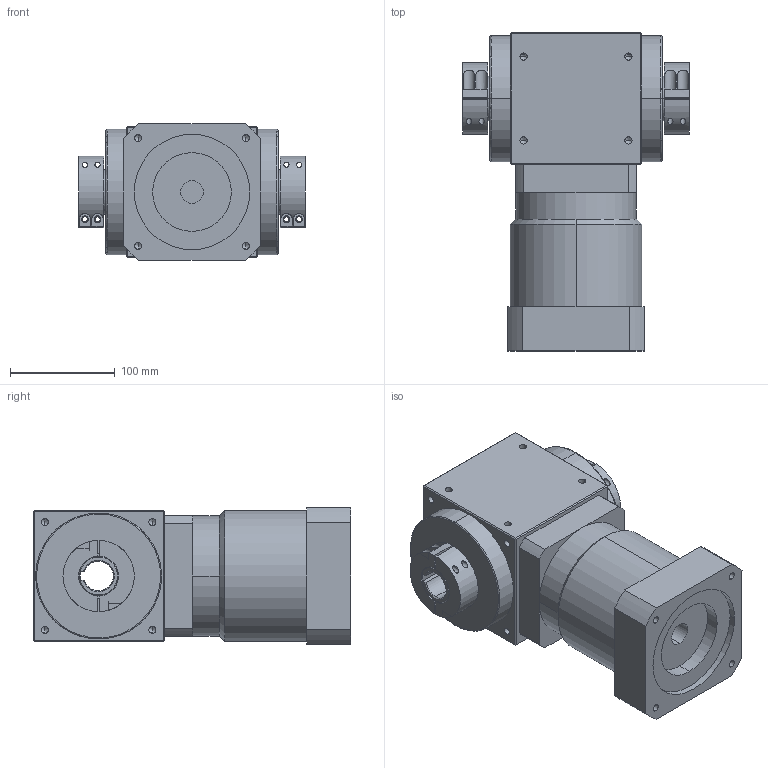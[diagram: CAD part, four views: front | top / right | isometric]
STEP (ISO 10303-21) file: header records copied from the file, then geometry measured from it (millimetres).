
FILE_DESCRIPTION (( 'STEP AP214' ), '1' );
FILE_NAME ('PAW125A-L2-2C-K(12-100) 22-110-145-M8.STEP', '2021-04-24T08:10:29', ( 'Microsoft' ), ( 'Microsoft China' ), 'SwSTEP 2.0', 'SolidWorks 2016', '' );
FILE_SCHEMA (( 'AUTOMOTIVE_DESIGN' ));
Length unit declared in the file: millimetre
Products named in the file (3): PAW125A-L2-2C-K(12-100) 22-110-145-M8; PAW125A-L2-2C-K-24-110-145-M8_1; 125標杶_1
Assembly tree (3 placements, depth 2):
  PAW125A-L2-2C-K(12-100) 22-110-145-M8
    PAW125A-L2-2C-K-24-110-145-M8_1
    125標杶_1  x2
Bounding box: 216 x 303 x 130 mm (x, y, z)
Volume: 4599724.8 mm3; surface area: 269943.1 mm2
Topology: 5 solids, 5 shells, 282 faces, 695 edges, 410 vertices
Faces by surface type: cylinder 129, plane 92, cone 57, bspline 4
Entity records: 9930 total; most frequent: CARTESIAN_POINT 1709, DIRECTION 1205, ORIENTED_EDGE 1078, EDGE_CURVE 539, AXIS2_PLACEMENT_3D 466, VERTEX_POINT 338, EDGE_LOOP 295, VECTOR 273
